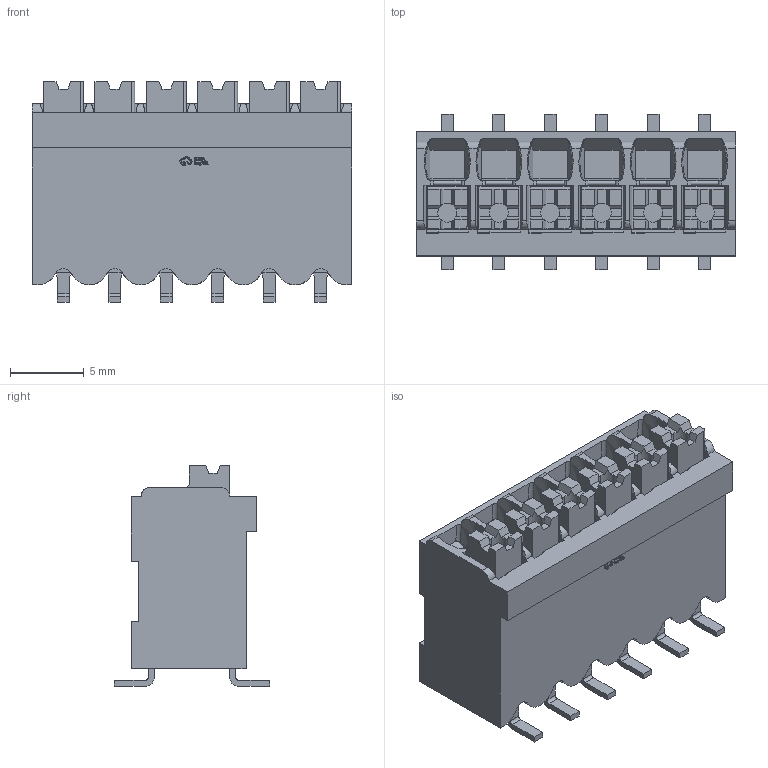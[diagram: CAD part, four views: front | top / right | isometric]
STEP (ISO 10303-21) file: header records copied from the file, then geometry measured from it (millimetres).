
FILE_DESCRIPTION (( 'STEP AP214' ), '1' );
FILE_NAME ('CONN-SMD_6P-P3.50_JL212V-SMT-35006BP1.STEP', '2026-03-12T13:00:06', ( 'User' ), ( 'China' ), 'SwSTEP 2.0', 'SolidWorks 2020', '' );
FILE_SCHEMA (( 'AUTOMOTIVE_DESIGN' ));
Length unit declared in the file: millimetre
Products named in the file (1): CONN-SMD_6P-P3.50_JL212V-SMT-35006BP1
Bounding box: 21.7 x 10.55 x 15 mm (x, y, z)
Volume: 1770.2 mm3; surface area: 1945 mm2
Topology: 1 solids, 1 shells, 883 faces, 2598 edges, 1742 vertices
Faces by surface type: plane 645, cylinder 116, bspline 110, cone 12
Entity records: 40709 total; most frequent: CARTESIAN_POINT 8957, ORIENTED_EDGE 5196, DIRECTION 3566, EDGE_CURVE 2598, VECTOR 1836, LINE 1836, VERTEX_POINT 1742, EDGE_LOOP 920
